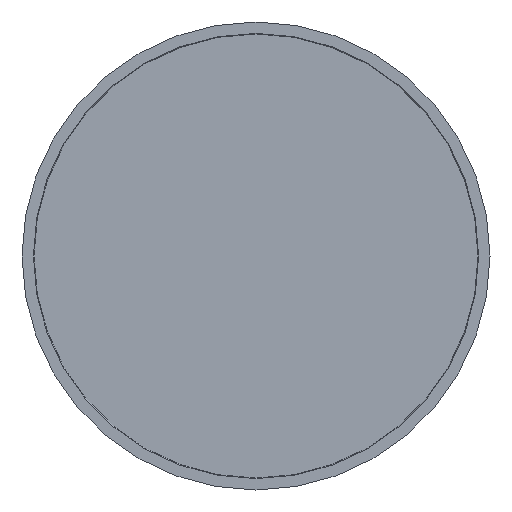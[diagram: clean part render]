
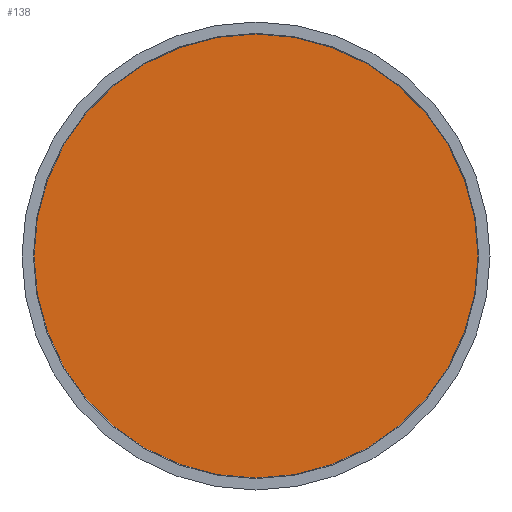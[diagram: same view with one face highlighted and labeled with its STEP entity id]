
A CAD part, front view. The second image highlights one B-rep face of the part: STEP entity #138.
In plain terms, the highlighted planar face has unit normal (0, -1, 0).
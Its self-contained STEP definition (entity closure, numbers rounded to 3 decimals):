
#138 = ADVANCED_FACE( '', ( #326 ), #327, .T. );
#326 = FACE_OUTER_BOUND( '', #561, .T. );
#327 = PLANE( '', #562 );
#561 = EDGE_LOOP( '', ( #973 ) );
#562 = AXIS2_PLACEMENT_3D( '', #974, #975, #976 );
#973 = ORIENTED_EDGE( '', *, *, #1597, .T. );
#974 = CARTESIAN_POINT( '', ( -185.5, 33.5, 0. ) );
#975 = DIRECTION( '', ( 0., -1., 0. ) );
#976 = DIRECTION( '', ( 1., 0., 0. ) );
#1597 = EDGE_CURVE( '', #1899, #1899, #1900, .T. );
#1899 = VERTEX_POINT( '', #2641 );
#1900 = CIRCLE( '', #2642, 185.5 );
#2641 = CARTESIAN_POINT( '', ( 185.5, 33.5, 0. ) );
#2642 = AXIS2_PLACEMENT_3D( '', #2986, #2987, #2988 );
#2986 = CARTESIAN_POINT( '', ( 0., 33.5, 0. ) );
#2987 = DIRECTION( '', ( 0., -1., 0. ) );
#2988 = DIRECTION( '', ( 1., 0., 0. ) );
